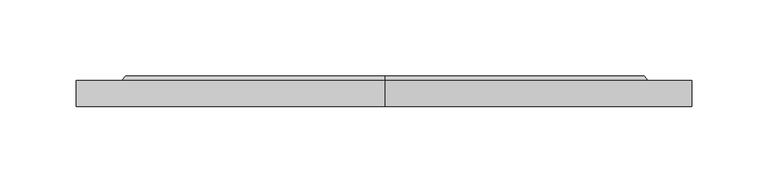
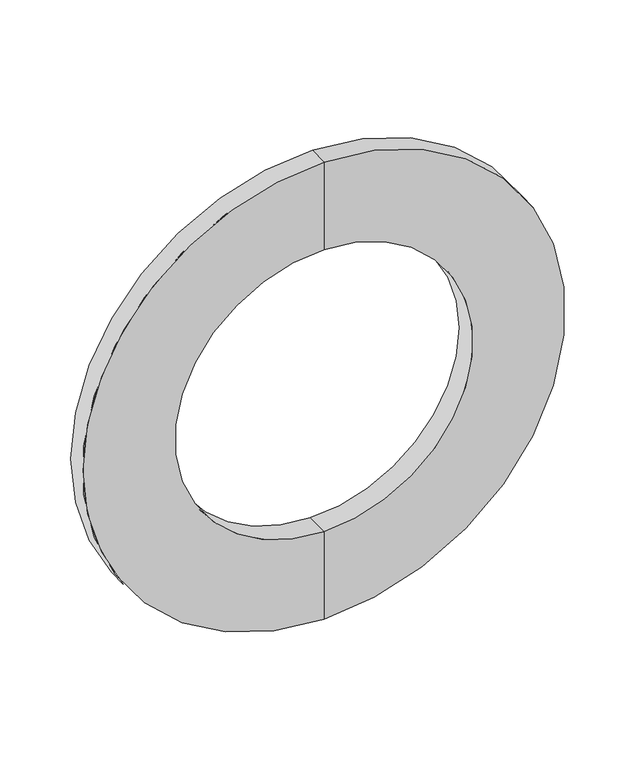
"""IFC4 building model written with IfcOpenShell, lengths in millimetres: pipe fitting geometry, Фланец : Фланец."""

from ifc_helpers import new_model, si_unit, frame, origin, place, context, project, spatial, polyline, circle_curve, source, transform, mapped, element, save
from ifc_brep_helpers import plane_surface, cylinder_surface, revolved_surface, advanced_brep


def pipe_fitting_1e0624fc(model_context):
    return source(origin(), model_context, "Body", "AdvancedBrep", [
        advanced_brep(
        [(0.0, 0.0, -202.5), (0.0, 0.0, 202.5), (0.0, 17.0, 202.5), (0.0, 17.0, -202.5), (0.0, 0.0, -125.0), (0.0, 0.0, 125.0), (0.0, 20.0, -125.0), (0.0, 20.0, 125.0), (0.0, 20.0, -171.0), (0.0, 20.0, 171.0), (0.0, 17.0, -173.5), (0.0, 17.0, 173.5)],
        [
            (0, 1, circle_curve(frame((0.0, 0.0, 0.0), z_axis=(0.0, 1.0, 0.0), x_axis=(0.0, 0.0, 1.0)), 202.5)),
            (1, 2),
            (2, 3, circle_curve(frame((0.0, 17.0, 0.0), z_axis=(0.0, -1.0, 0.0), x_axis=(0.0, 0.0, 1.0)), 202.5)),
            (3, 0),
            (1, 0, circle_curve(frame((0.0, 0.0, 0.0), z_axis=(0.0, 1.0, 0.0), x_axis=(0.0, 0.0, 1.0)), 202.5)),
            (3, 2, circle_curve(frame((0.0, 17.0, 0.0), z_axis=(0.0, -1.0, 0.0), x_axis=(0.0, 0.0, 1.0)), 202.5)),
            (4, 5, circle_curve(frame((0.0, 0.0, 0.0), z_axis=(0.0, 1.0, 0.0), x_axis=(0.0, 0.0, 1.0)), 125.0)),
            (5, 1),
            (0, 4),
            (5, 4, circle_curve(frame((0.0, 0.0, 0.0), z_axis=(0.0, 1.0, 0.0), x_axis=(0.0, 0.0, 1.0)), 125.0)),
            (6, 7, circle_curve(frame((0.0, 20.0, 0.0), z_axis=(0.0, 1.0, 0.0), x_axis=(0.0, 0.0, 1.0)), 125.0)),
            (7, 5),
            (4, 6),
            (7, 6, circle_curve(frame((0.0, 20.0, 0.0), z_axis=(0.0, 1.0, 0.0), x_axis=(0.0, 0.0, 1.0)), 125.0)),
            (8, 9, circle_curve(frame((0.0, 20.0, 0.0), z_axis=(0.0, 1.0, 0.0), x_axis=(0.0, 0.0, 1.0)), 171.0)),
            (9, 7),
            (6, 8),
            (9, 8, circle_curve(frame((0.0, 20.0, 0.0), z_axis=(0.0, 1.0, 0.0), x_axis=(0.0, 0.0, 1.0)), 171.0)),
            (10, 11, circle_curve(frame((0.0, 17.0, 0.0), z_axis=(0.0, 1.0, 0.0), x_axis=(0.0, 0.0, 1.0)), 173.5)),
            (11, 9),
            (8, 10),
            (11, 10, circle_curve(frame((0.0, 17.0, 0.0), z_axis=(0.0, 1.0, 0.0), x_axis=(0.0, 0.0, 1.0)), 173.5)),
            (2, 11),
            (10, 3),
        ],
        [
            cylinder_surface(frame((0.0, -60.0, 0.0), z_axis=(0.0, -1.0, 0.0), x_axis=(0.0, 0.0, 1.0)), 202.5),
            plane_surface(frame((0.0, 0.0, 0.0), z_axis=(0.0, -1.0, 0.0), x_axis=(0.0, 0.0, 1.0))),
            revolved_surface(polyline([(0.0, 0.0, 125.0), (0.0, 20.0, 125.0)]), (0.0, -60.0, 0.0), (0.0, -1.0, 0.0)),
            plane_surface(frame((0.0, 20.0, 0.0), z_axis=(0.0, 1.0, 0.0), x_axis=(0.0, 0.0, 1.0))),
            revolved_surface(polyline([(0.0, 20.0, 171.0), (0.0, 17.0, 173.5)]), (0.0, -60.0, 0.0), (0.0, -1.0, 0.0)),
            plane_surface(frame((0.0, 17.0, 0.0), z_axis=(0.0, 1.0, 0.0), x_axis=(0.0, 0.0, 1.0))),
        ],
        [
            (0, [[1, 2, 3, 4]]),
            (0, [[5, -4, 6, -2]]),
            (1, [[7, 8, -1, 9]]),
            (1, [[10, -9, -5, -8]]),
            (2, [[11, 12, -7, 13]]),
            (2, [[14, -13, -10, -12]]),
            (3, [[15, 16, -11, 17]]),
            (3, [[18, -17, -14, -16]]),
            (4, [[19, 20, -15, 21]]),
            (4, [[22, -21, -18, -20]]),
            (5, [[-3, 23, -19, 24]]),
            (5, [[-6, -24, -22, -23]]),
        ],
    ),
    ])


if __name__ == "__main__":
    model = new_model("IFC4")
    model_context = context("Model", 3, world=origin())
    ifc_project = project(units=[si_unit("LENGTHUNIT", "METRE", prefix="MILLI")], contexts=[model_context])
    site = spatial("IfcSite", under=ifc_project)
    building = spatial("IfcBuilding", under=site)
    placement = place(None, origin())
    pipe_fitting_shape = pipe_fitting_1e0624fc(model_context)
    element("IfcPipeFitting", 1, ObjectType="Фланец : Фланец", at=placement, inside=building, context=model_context, shape_type="MappedRepresentation", body=[
        mapped(pipe_fitting_shape, transform((0.0, 0.0, 0.0), x_axis=(1.0, 0.0, 0.0), y_axis=(0.0, 1.0, 0.0), z_axis=(0.0, 0.0, 1.0))),
    ])
    save(model, "model.ifc")
